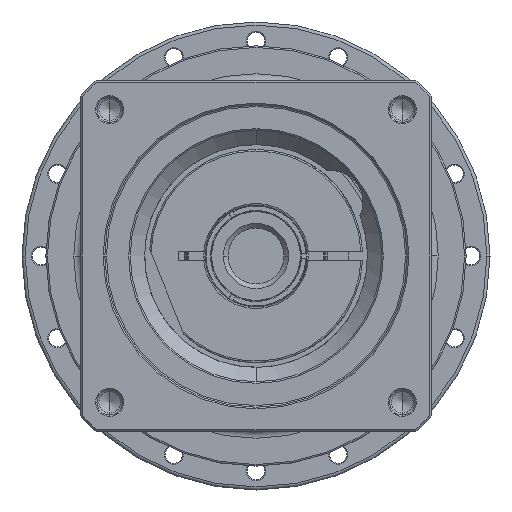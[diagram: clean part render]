
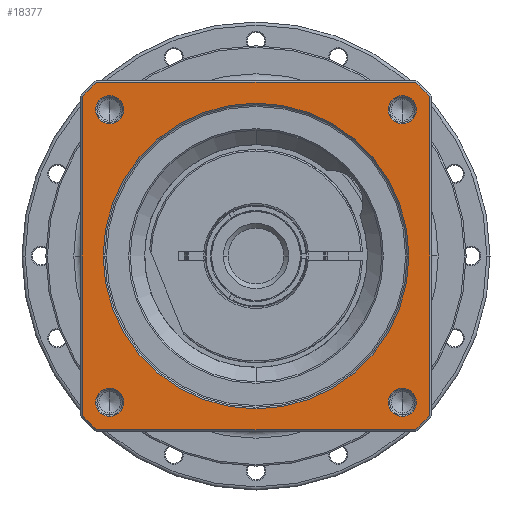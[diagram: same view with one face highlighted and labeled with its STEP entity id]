
A CAD part, left-side view. The second image highlights one B-rep face of the part: STEP entity #18377.
In plain terms, the highlighted planar face has unit normal (-1, 0, 0) as drawn and (0, 0, 1) by its records, which use the part's own axes.
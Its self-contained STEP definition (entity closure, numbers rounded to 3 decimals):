
#17143=CARTESIAN_POINT('',(0.,0.,
36.));
#17144=DIRECTION('',(0.,0.,-1.));
#17145=DIRECTION('',(0.,-1.,0.));
#17146=AXIS2_PLACEMENT_3D('',#17143,#17144,#17145);
#17148=CARTESIAN_POINT('',(0.,0.,
36.));
#17149=DIRECTION('',(0.,0.,-1.));
#17150=DIRECTION('',(0.,1.,0.));
#17151=AXIS2_PLACEMENT_3D('',#17148,#17149,#17150);
#17153=CARTESIAN_POINT('',(0.,0.,36.));
#17154=DIRECTION('',(0.,0.,1.));
#17155=DIRECTION('',(-0.736,-0.676,0.));
#17156=AXIS2_PLACEMENT_3D('',#17153,#17154,#17155);
#17168=DIRECTION('',(1.,0.,0.));
#17169=VECTOR('',#17168,100.115);
#17170=CARTESIAN_POINT('',(-50.057,-54.5,36.));
#17171=LINE('',#17170,#17169);
#17181=CARTESIAN_POINT('',(0.,0.,36.));
#17182=DIRECTION('',(0.,0.,1.));
#17183=DIRECTION('',(0.676,-0.736,0.));
#17184=AXIS2_PLACEMENT_3D('',#17181,#17182,#17183);
#17196=DIRECTION('',(0.,1.,0.));
#17197=VECTOR('',#17196,100.115);
#17198=CARTESIAN_POINT('',(54.5,-50.057,36.));
#17199=LINE('',#17198,#17197);
#17209=CARTESIAN_POINT('',(0.,0.,36.));
#17210=DIRECTION('',(0.,0.,1.));
#17211=DIRECTION('',(0.736,0.676,0.));
#17212=AXIS2_PLACEMENT_3D('',#17209,#17210,#17211);
#17224=DIRECTION('',(-1.,0.,0.));
#17225=VECTOR('',#17224,100.115);
#17226=CARTESIAN_POINT('',(50.057,54.5,36.));
#17227=LINE('',#17226,#17225);
#17232=CARTESIAN_POINT('',(0.,0.,36.));
#17233=DIRECTION('',(0.,0.,1.));
#17234=DIRECTION('',(-0.676,0.736,0.));
#17235=AXIS2_PLACEMENT_3D('',#17232,#17233,#17234);
#17252=DIRECTION('',(0.,-1.,0.));
#17253=VECTOR('',#17252,100.115);
#17254=CARTESIAN_POINT('',(-54.5,50.057,36.));
#17255=LINE('',#17254,#17253);
#17679=CARTESIAN_POINT('',(-45.962,45.962,36.));
#17680=DIRECTION('',(0.,0.,1.));
#17681=DIRECTION('',(-1.,0.,0.));
#17682=AXIS2_PLACEMENT_3D('',#17679,#17680,#17681);
#17697=CARTESIAN_POINT('',(-45.962,45.962,36.));
#17698=DIRECTION('',(0.,0.,1.));
#17699=DIRECTION('',(1.,0.,0.));
#17700=AXIS2_PLACEMENT_3D('',#17697,#17698,#17699);
#17733=CARTESIAN_POINT('',(45.962,45.962,36.));
#17734=DIRECTION('',(0.,0.,1.));
#17735=DIRECTION('',(-1.,0.,0.));
#17736=AXIS2_PLACEMENT_3D('',#17733,#17734,#17735);
#17751=CARTESIAN_POINT('',(45.962,45.962,36.));
#17752=DIRECTION('',(0.,0.,1.));
#17753=DIRECTION('',(1.,0.,0.));
#17754=AXIS2_PLACEMENT_3D('',#17751,#17752,#17753);
#17787=CARTESIAN_POINT('',(45.962,-45.962,36.));
#17788=DIRECTION('',(0.,0.,1.));
#17789=DIRECTION('',(-1.,0.,0.));
#17790=AXIS2_PLACEMENT_3D('',#17787,#17788,#17789);
#17805=CARTESIAN_POINT('',(45.962,-45.962,36.));
#17806=DIRECTION('',(0.,0.,1.));
#17807=DIRECTION('',(1.,0.,0.));
#17808=AXIS2_PLACEMENT_3D('',#17805,#17806,#17807);
#17841=CARTESIAN_POINT('',(-45.962,-45.962,36.));
#17842=DIRECTION('',(0.,0.,1.));
#17843=DIRECTION('',(-1.,0.,0.));
#17844=AXIS2_PLACEMENT_3D('',#17841,#17842,#17843);
#17859=CARTESIAN_POINT('',(-45.962,-45.962,36.));
#17860=DIRECTION('',(0.,0.,1.));
#17861=DIRECTION('',(1.,0.,0.));
#17862=AXIS2_PLACEMENT_3D('',#17859,#17860,#17861);
#17895=CARTESIAN_POINT('',(54.5,-50.057,36.));
#17896=CARTESIAN_POINT('',(54.5,50.057,36.));
#17897=VERTEX_POINT('',#17895);
#17898=VERTEX_POINT('',#17896);
#17903=CARTESIAN_POINT('',(50.057,-54.5,36.));
#17904=VERTEX_POINT('',#17903);
#17907=CARTESIAN_POINT('',(-50.057,-54.5,36.));
#17908=VERTEX_POINT('',#17907);
#17911=CARTESIAN_POINT('',(-54.5,-50.057,36.));
#17912=VERTEX_POINT('',#17911);
#17915=CARTESIAN_POINT('',(-54.5,50.057,36.));
#17916=VERTEX_POINT('',#17915);
#17919=CARTESIAN_POINT('',(-50.057,54.5,36.));
#17920=VERTEX_POINT('',#17919);
#17923=CARTESIAN_POINT('',(50.057,54.5,36.));
#17924=VERTEX_POINT('',#17923);
#17933=CARTESIAN_POINT('',(-50.362,45.962,36.));
#17934=CARTESIAN_POINT('',(-41.562,45.962,36.));
#17935=VERTEX_POINT('',#17933);
#17936=VERTEX_POINT('',#17934);
#17959=CARTESIAN_POINT('',(50.362,45.962,36.));
#17960=CARTESIAN_POINT('',(41.562,45.962,36.));
#17961=VERTEX_POINT('',#17959);
#17962=VERTEX_POINT('',#17960);
#17967=CARTESIAN_POINT('',(50.362,-45.962,36.));
#17968=CARTESIAN_POINT('',(41.562,-45.962,36.));
#17969=VERTEX_POINT('',#17967);
#17970=VERTEX_POINT('',#17968);
#17975=CARTESIAN_POINT('',(-41.562,-45.962,36.));
#17976=CARTESIAN_POINT('',(-50.362,-45.962,36.));
#17977=VERTEX_POINT('',#17975);
#17978=VERTEX_POINT('',#17976);
#17983=CARTESIAN_POINT('',(0.,-48.,36.));
#17984=CARTESIAN_POINT('',(0.,48.,36.));
#17985=VERTEX_POINT('',#17983);
#17986=VERTEX_POINT('',#17984);
#18325=CARTESIAN_POINT('',(0.,0.,36.));
#18326=DIRECTION('',(0.,0.,1.));
#18327=DIRECTION('',(1.,0.,0.));
#18328=AXIS2_PLACEMENT_3D('',#18325,#18326,#18327);
#18329=PLANE('',#18328);
#18331=ORIENTED_EDGE('',*,*,#18330,.F.);
#18333=ORIENTED_EDGE('',*,*,#18332,.F.);
#18335=ORIENTED_EDGE('',*,*,#18334,.F.);
#18337=ORIENTED_EDGE('',*,*,#18336,.F.);
#18339=ORIENTED_EDGE('',*,*,#18338,.F.);
#18341=ORIENTED_EDGE('',*,*,#18340,.F.);
#18343=ORIENTED_EDGE('',*,*,#18342,.F.);
#18345=ORIENTED_EDGE('',*,*,#18344,.F.);
#18346=EDGE_LOOP('',(#18331,#18333,#18335,#18337,#18339,#18341,#18343,#18345));
#18347=FACE_OUTER_BOUND('',#18346,.F.);
#18348=ORIENTED_EDGE('',*,*,#18315,.F.);
#18350=ORIENTED_EDGE('',*,*,#18349,.F.);
#18351=EDGE_LOOP('',(#18348,#18350));
#18352=FACE_BOUND('',#18351,.F.);
#18354=ORIENTED_EDGE('',*,*,#18353,.T.);
#18356=ORIENTED_EDGE('',*,*,#18355,.T.);
#18357=EDGE_LOOP('',(#18354,#18356));
#18358=FACE_BOUND('',#18357,.F.);
#18360=ORIENTED_EDGE('',*,*,#18359,.T.);
#18362=ORIENTED_EDGE('',*,*,#18361,.T.);
#18363=EDGE_LOOP('',(#18360,#18362));
#18364=FACE_BOUND('',#18363,.F.);
#18366=ORIENTED_EDGE('',*,*,#18365,.T.);
#18368=ORIENTED_EDGE('',*,*,#18367,.T.);
#18369=EDGE_LOOP('',(#18366,#18368));
#18370=FACE_BOUND('',#18369,.F.);
#18372=ORIENTED_EDGE('',*,*,#18371,.T.);
#18374=ORIENTED_EDGE('',*,*,#18373,.T.);
#18375=EDGE_LOOP('',(#18372,#18374));
#18376=FACE_BOUND('',#18375,.F.);
#18377=ADVANCED_FACE('',(#18347,#18352,#18358,#18364,#18370,#18376),#18329,.T.);
#17147=CIRCLE('',#17146,48.);
#17152=CIRCLE('',#17151,48.);
#17157=CIRCLE('',#17156,74.);
#17185=CIRCLE('',#17184,74.);
#17213=CIRCLE('',#17212,74.);
#17236=CIRCLE('',#17235,74.);
#17683=CIRCLE('',#17682,4.4);
#17701=CIRCLE('',#17700,4.4);
#17737=CIRCLE('',#17736,4.4);
#17755=CIRCLE('',#17754,4.4);
#17791=CIRCLE('',#17790,4.4);
#17809=CIRCLE('',#17808,4.4);
#17845=CIRCLE('',#17844,4.4);
#17863=CIRCLE('',#17862,4.4);
#18315=EDGE_CURVE('',#17985,#17986,#17147,.T.);
#18330=EDGE_CURVE('',#17912,#17908,#17157,.T.);
#18332=EDGE_CURVE('',#17916,#17912,#17255,.T.);
#18334=EDGE_CURVE('',#17920,#17916,#17236,.T.);
#18336=EDGE_CURVE('',#17924,#17920,#17227,.T.);
#18338=EDGE_CURVE('',#17898,#17924,#17213,.T.);
#18340=EDGE_CURVE('',#17897,#17898,#17199,.T.);
#18342=EDGE_CURVE('',#17904,#17897,#17185,.T.);
#18344=EDGE_CURVE('',#17908,#17904,#17171,.T.);
#18349=EDGE_CURVE('',#17986,#17985,#17152,.T.);
#18353=EDGE_CURVE('',#17935,#17936,#17683,.T.);
#18355=EDGE_CURVE('',#17936,#17935,#17701,.T.);
#18359=EDGE_CURVE('',#17962,#17961,#17737,.T.);
#18361=EDGE_CURVE('',#17961,#17962,#17755,.T.);
#18365=EDGE_CURVE('',#17970,#17969,#17791,.T.);
#18367=EDGE_CURVE('',#17969,#17970,#17809,.T.);
#18371=EDGE_CURVE('',#17978,#17977,#17845,.T.);
#18373=EDGE_CURVE('',#17977,#17978,#17863,.T.);
